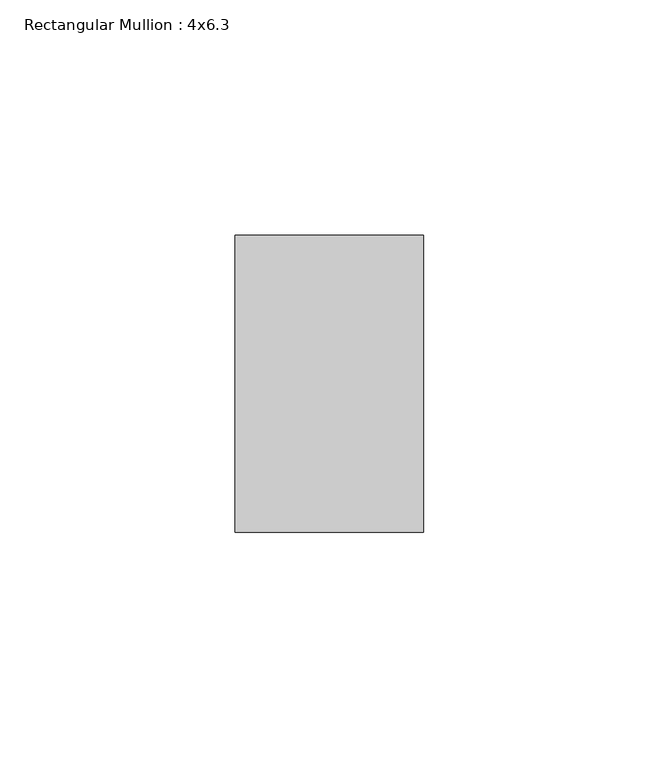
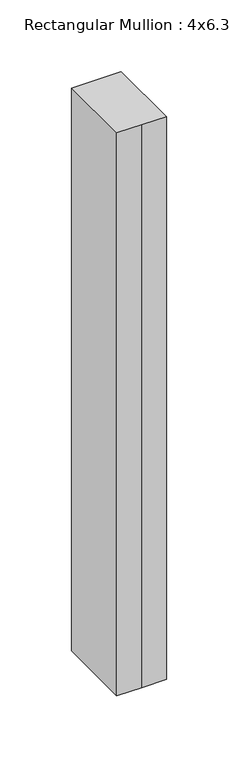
"""IFC4 building model written with IfcOpenShell, lengths in millimetres: member geometry, Rectangular Mullion : 4x6.3."""

from ifc_helpers import new_model, si_unit, frame, origin, place, context, project, spatial, polyline, outline, extrude, source, transform, mapped, element, save


def rectangular_mullion_4x6_3_95563310(model_context):
    return source(origin(), model_context, "Body", "SweptSolid", [
        extrude(outline(polyline([(-20.0, 20.0), (-20.0, 83.0), (20.0, 83.0), (20.0, 20.0), (0.0, 20.0), (-20.0, 20.0)])), frame((0.0, 0.0, -479.6959808), z_axis=(0.0, 0.0, 1.0), x_axis=(1.0, 0.0, 0.0)), (0.0, 0.0, 1.0), 479.6959808),
    ])


if __name__ == "__main__":
    model = new_model("IFC4")
    model_context = context("Model", 3, world=origin())
    ifc_project = project(units=[si_unit("LENGTHUNIT", "METRE", prefix="MILLI")], contexts=[model_context])
    site = spatial("IfcSite", under=ifc_project)
    building = spatial("IfcBuilding", under=site)
    placement = place(None, origin())
    rectangular_mullion_4x6_3_shape = rectangular_mullion_4x6_3_95563310(model_context)
    element("IfcMember", 1, ObjectType="Rectangular Mullion : 4x6.3", at=placement, inside=building, context=model_context, shape_type="MappedRepresentation", body=[
        mapped(rectangular_mullion_4x6_3_shape, transform((0.0, 0.0, 0.0), x_axis=(1.0, 0.0, 0.0), y_axis=(0.0, 1.0, 0.0), z_axis=(0.0, 0.0, 1.0))),
    ])
    save(model, "model.ifc")
